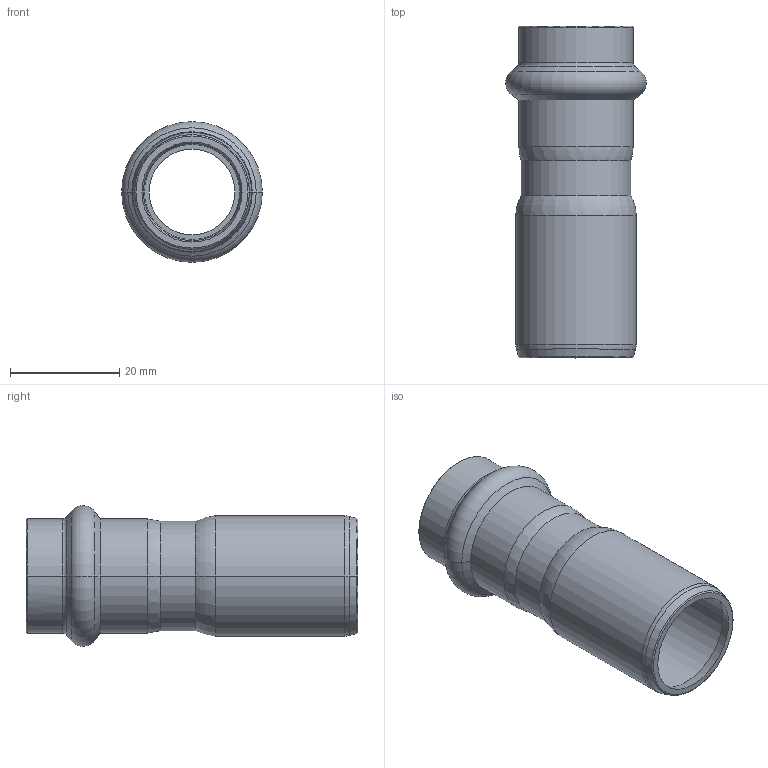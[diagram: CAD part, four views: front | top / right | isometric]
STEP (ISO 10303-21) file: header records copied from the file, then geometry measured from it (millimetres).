
FILE_DESCRIPTION(('CoCreate Modeling STEP Export'),'2;1');
FILE_NAME('8243VW2218.stp','2013-03-05T 9:23:33',(''),(''),'CoCreate Modeling STEP processor for AP214 (Solid Model)','CoCreate Modeling 17.00A 17-Jun-2010 (C) Parametric Technology GmbH','');
FILE_SCHEMA(('AUTOMOTIVE_DESIGN { 1 0 10303 214 1 1 1 1 }'));
Length unit declared in the file: millimetre
Products named in the file (1): 8243VW2218
Bounding box: 25.7 x 60.64 x 25.7 mm (x, y, z)
Volume: 5775.8 mm3; surface area: 8117.1 mm2
Topology: 1 solids, 1 shells, 58 faces, 119 edges, 65 vertices
Faces by surface type: torus 20, cylinder 18, cone 16, plane 4
Entity records: 1245 total; most frequent: ORIENTED_EDGE 238, DIRECTION 200, CARTESIAN_POINT 182, EDGE_CURVE 119, AXIS2_PLACEMENT_3D 83, VERTEX_POINT 65, EDGE_LOOP 62, FACE_OUTER_BOUND 58
